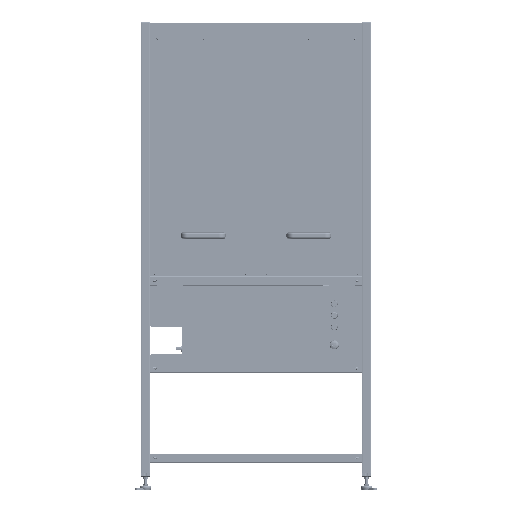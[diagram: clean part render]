
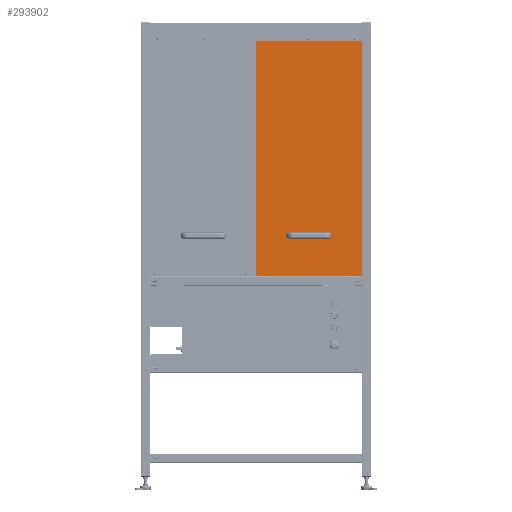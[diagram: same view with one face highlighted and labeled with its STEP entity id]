
A CAD part, top view. The second image highlights one B-rep face of the part: STEP entity #293902.
In plain terms, the highlighted planar face has unit normal (0, 0, 1) as drawn and (1, 0, 0) by its records, which use the part's own axes.
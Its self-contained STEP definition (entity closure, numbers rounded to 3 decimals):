
#10423=FACE_BOUND('',#45462,.T.);
#10424=FACE_BOUND('',#45463,.T.);
#10425=FACE_BOUND('',#45464,.T.);
#10426=FACE_BOUND('',#45465,.T.);
#10427=FACE_BOUND('',#45466,.T.);
#10428=FACE_BOUND('',#45467,.T.);
#10429=FACE_BOUND('',#45468,.T.);
#10430=FACE_BOUND('',#45469,.T.);
#10431=FACE_BOUND('',#45470,.T.);
#10432=FACE_BOUND('',#45471,.T.);
#10433=FACE_BOUND('',#45472,.T.);
#16021=CIRCLE('',#318054,2.05);
#16023=CIRCLE('',#318057,2.05);
#16025=CIRCLE('',#318060,2.05);
#16027=CIRCLE('',#318063,2.05);
#16029=CIRCLE('',#318066,2.05);
#16031=CIRCLE('',#318069,2.05);
#16032=CIRCLE('',#318071,4.);
#16034=CIRCLE('',#318074,4.);
#16036=CIRCLE('',#318077,2.1);
#16038=CIRCLE('',#318080,2.1);
#16040=CIRCLE('',#318083,2.1);
#28886=FACE_OUTER_BOUND('',#45461,.T.);
#45461=EDGE_LOOP('',(#218721,#218722,#218723,#218724));
#45462=EDGE_LOOP('',(#218725));
#45463=EDGE_LOOP('',(#218726));
#45464=EDGE_LOOP('',(#218727));
#45465=EDGE_LOOP('',(#218728));
#45466=EDGE_LOOP('',(#218729));
#45467=EDGE_LOOP('',(#218730));
#45468=EDGE_LOOP('',(#218731));
#45469=EDGE_LOOP('',(#218732));
#45470=EDGE_LOOP('',(#218733));
#45471=EDGE_LOOP('',(#218734));
#45472=EDGE_LOOP('',(#218735));
#66110=LINE('',#464865,#98018);
#66114=LINE('',#464873,#98022);
#66117=LINE('',#464879,#98025);
#66120=LINE('',#464884,#98028);
#98018=VECTOR('',#360517,10.);
#98022=VECTOR('',#360523,10.);
#98025=VECTOR('',#360528,10.);
#98028=VECTOR('',#360533,10.);
#130306=VERTEX_POINT('',#464799);
#130308=VERTEX_POINT('',#464805);
#130310=VERTEX_POINT('',#464811);
#130312=VERTEX_POINT('',#464817);
#130314=VERTEX_POINT('',#464823);
#130316=VERTEX_POINT('',#464829);
#130317=VERTEX_POINT('',#464833);
#130319=VERTEX_POINT('',#464839);
#130321=VERTEX_POINT('',#464845);
#130323=VERTEX_POINT('',#464851);
#130325=VERTEX_POINT('',#464857);
#130327=VERTEX_POINT('',#464863);
#130328=VERTEX_POINT('',#464864);
#130331=VERTEX_POINT('',#464872);
#130333=VERTEX_POINT('',#464878);
#162865=EDGE_CURVE('',#130306,#130306,#16021,.T.);
#162868=EDGE_CURVE('',#130308,#130308,#16023,.T.);
#162871=EDGE_CURVE('',#130310,#130310,#16025,.T.);
#162874=EDGE_CURVE('',#130312,#130312,#16027,.T.);
#162877=EDGE_CURVE('',#130314,#130314,#16029,.T.);
#162880=EDGE_CURVE('',#130316,#130316,#16031,.T.);
#162881=EDGE_CURVE('',#130317,#130317,#16032,.T.);
#162884=EDGE_CURVE('',#130319,#130319,#16034,.T.);
#162887=EDGE_CURVE('',#130321,#130321,#16036,.T.);
#162890=EDGE_CURVE('',#130323,#130323,#16038,.T.);
#162893=EDGE_CURVE('',#130325,#130325,#16040,.T.);
#162896=EDGE_CURVE('',#130327,#130328,#66110,.T.);
#162900=EDGE_CURVE('',#130328,#130331,#66114,.T.);
#162903=EDGE_CURVE('',#130331,#130333,#66117,.T.);
#162906=EDGE_CURVE('',#130333,#130327,#66120,.T.);
#218721=ORIENTED_EDGE('',*,*,#162896,.F.);
#218722=ORIENTED_EDGE('',*,*,#162906,.F.);
#218723=ORIENTED_EDGE('',*,*,#162903,.F.);
#218724=ORIENTED_EDGE('',*,*,#162900,.F.);
#218725=ORIENTED_EDGE('',*,*,#162865,.T.);
#218726=ORIENTED_EDGE('',*,*,#162868,.T.);
#218727=ORIENTED_EDGE('',*,*,#162871,.T.);
#218728=ORIENTED_EDGE('',*,*,#162874,.T.);
#218729=ORIENTED_EDGE('',*,*,#162877,.T.);
#218730=ORIENTED_EDGE('',*,*,#162880,.T.);
#218731=ORIENTED_EDGE('',*,*,#162881,.T.);
#218732=ORIENTED_EDGE('',*,*,#162884,.T.);
#218733=ORIENTED_EDGE('',*,*,#162887,.T.);
#218734=ORIENTED_EDGE('',*,*,#162890,.T.);
#218735=ORIENTED_EDGE('',*,*,#162893,.T.);
#280926=PLANE('',#318089);
#293902=ADVANCED_FACE('',(#28886,#10423,#10424,#10425,#10426,#10427,#10428,
#10429,#10430,#10431,#10432,#10433),#280926,.T.);
#318054=AXIS2_PLACEMENT_3D('',#464801,#360443,#360444);
#318057=AXIS2_PLACEMENT_3D('',#464807,#360450,#360451);
#318060=AXIS2_PLACEMENT_3D('',#464813,#360457,#360458);
#318063=AXIS2_PLACEMENT_3D('',#464819,#360464,#360465);
#318066=AXIS2_PLACEMENT_3D('',#464825,#360471,#360472);
#318069=AXIS2_PLACEMENT_3D('',#464831,#360478,#360479);
#318071=AXIS2_PLACEMENT_3D('',#464834,#360482,#360483);
#318074=AXIS2_PLACEMENT_3D('',#464840,#360489,#360490);
#318077=AXIS2_PLACEMENT_3D('',#464846,#360496,#360497);
#318080=AXIS2_PLACEMENT_3D('',#464852,#360503,#360504);
#318083=AXIS2_PLACEMENT_3D('',#464858,#360510,#360511);
#318089=AXIS2_PLACEMENT_3D('',#464886,#360535,#360536);
#360443=DIRECTION('center_axis',(-1.,0.,0.));
#360444=DIRECTION('ref_axis',(0.,1.,0.));
#360450=DIRECTION('center_axis',(-1.,0.,0.));
#360451=DIRECTION('ref_axis',(0.,1.,0.));
#360457=DIRECTION('center_axis',(-1.,0.,0.));
#360458=DIRECTION('ref_axis',(0.,1.,0.));
#360464=DIRECTION('center_axis',(-1.,0.,0.));
#360465=DIRECTION('ref_axis',(0.,1.,0.));
#360471=DIRECTION('center_axis',(-1.,0.,0.));
#360472=DIRECTION('ref_axis',(0.,1.,0.));
#360478=DIRECTION('center_axis',(-1.,0.,0.));
#360479=DIRECTION('ref_axis',(0.,1.,0.));
#360482=DIRECTION('center_axis',(-1.,0.,0.));
#360483=DIRECTION('ref_axis',(0.,0.,-1.));
#360489=DIRECTION('center_axis',(-1.,0.,0.));
#360490=DIRECTION('ref_axis',(0.,0.,-1.));
#360496=DIRECTION('center_axis',(-1.,0.,0.));
#360497=DIRECTION('ref_axis',(0.,0.,-1.));
#360503=DIRECTION('center_axis',(-1.,0.,0.));
#360504=DIRECTION('ref_axis',(0.,0.,-1.));
#360510=DIRECTION('center_axis',(-1.,0.,0.));
#360511=DIRECTION('ref_axis',(0.,0.,-1.));
#360517=DIRECTION('',(0.,0.,-1.));
#360523=DIRECTION('',(0.,-1.,0.));
#360528=DIRECTION('',(0.,0.,1.));
#360533=DIRECTION('',(0.,1.,0.));
#360535=DIRECTION('center_axis',(1.,0.,0.));
#360536=DIRECTION('ref_axis',(0.,0.,-1.));
#464799=CARTESIAN_POINT('',(6.,-514.55,-213.));
#464801=CARTESIAN_POINT('Origin',(6.,-512.5,-213.));
#464805=CARTESIAN_POINT('',(6.,-514.55,213.));
#464807=CARTESIAN_POINT('Origin',(6.,-512.5,213.));
#464811=CARTESIAN_POINT('',(6.,-498.55,11.));
#464813=CARTESIAN_POINT('Origin',(6.,-496.5,11.));
#464817=CARTESIAN_POINT('',(6.,-498.55,-11.));
#464819=CARTESIAN_POINT('Origin',(6.,-496.5,-11.));
#464823=CARTESIAN_POINT('',(6.,-514.55,182.));
#464825=CARTESIAN_POINT('Origin',(6.,-512.5,182.));
#464829=CARTESIAN_POINT('',(6.,-514.55,-182.));
#464831=CARTESIAN_POINT('Origin',(6.,-512.5,-182.));
#464833=CARTESIAN_POINT('',(6.,-345.,93.5));
#464834=CARTESIAN_POINT('Origin',(6.,-345.,89.5));
#464839=CARTESIAN_POINT('',(6.,-345.,-85.5));
#464840=CARTESIAN_POINT('Origin',(6.,-345.,-89.5));
#464845=CARTESIAN_POINT('',(6.,510.,2.1));
#464846=CARTESIAN_POINT('Origin',(6.,510.,0.));
#464851=CARTESIAN_POINT('',(6.,510.,201.1));
#464852=CARTESIAN_POINT('Origin',(6.,510.,199.));
#464857=CARTESIAN_POINT('',(6.,510.,-196.9));
#464858=CARTESIAN_POINT('Origin',(6.,510.,-199.));
#464863=CARTESIAN_POINT('',(6.,520.,229.));
#464864=CARTESIAN_POINT('',(6.,520.,-229.));
#464865=CARTESIAN_POINT('',(6.,520.,229.));
#464872=CARTESIAN_POINT('',(6.,-520.,-229.));
#464873=CARTESIAN_POINT('',(6.,520.,-229.));
#464878=CARTESIAN_POINT('',(6.,-520.,229.));
#464879=CARTESIAN_POINT('',(6.,-520.,-229.));
#464884=CARTESIAN_POINT('',(6.,-520.,229.));
#464886=CARTESIAN_POINT('Origin',(6.,0.,0.));
